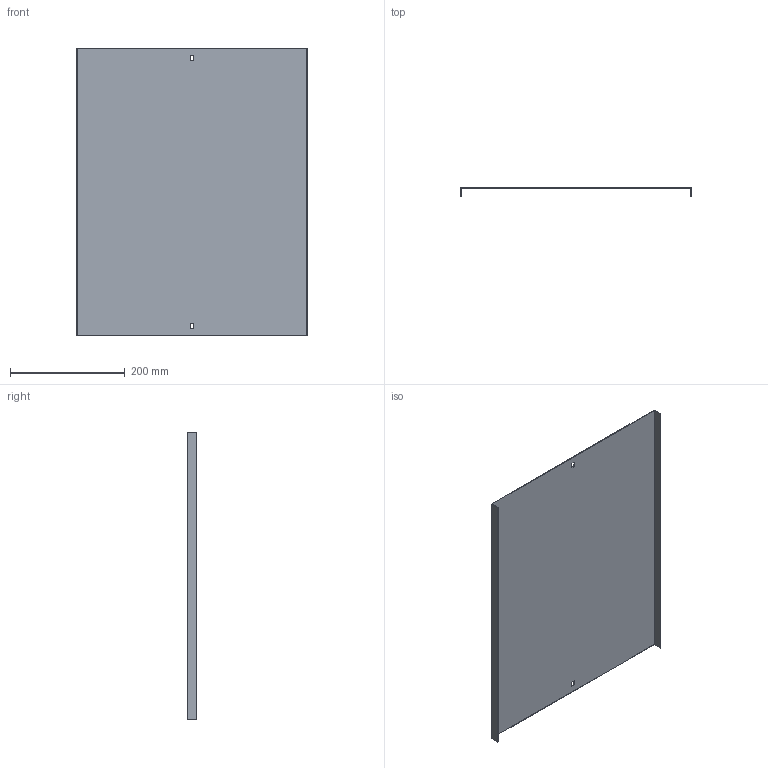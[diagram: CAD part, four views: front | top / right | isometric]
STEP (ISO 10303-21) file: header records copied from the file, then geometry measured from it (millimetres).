
FILE_DESCRIPTION (( 'STEP AP214' ), '1' );
FILE_NAME ('05G7R400.step', '2025-02-21T13:08:32', ( '' ), ( '' ), 'SwSTEP 2.0', 'SolidWorks 2023', '' );
FILE_SCHEMA (( 'AUTOMOTIVE_DESIGN' ));
Length unit declared in the file: millimetre
Products named in the file (1): 05G7R400
Bounding box: 402 x 16.5 x 500 mm (x, y, z)
Volume: 216383 mm3; surface area: 434694 mm2
Topology: 1 solids, 1 shells, 18 faces, 48 edges, 32 vertices
Faces by surface type: plane 18
Entity records: 583 total; most frequent: CARTESIAN_POINT 99, ORIENTED_EDGE 96, DIRECTION 86, EDGE_CURVE 48, VECTOR 48, LINE 48, VERTEX_POINT 32, EDGE_LOOP 22
